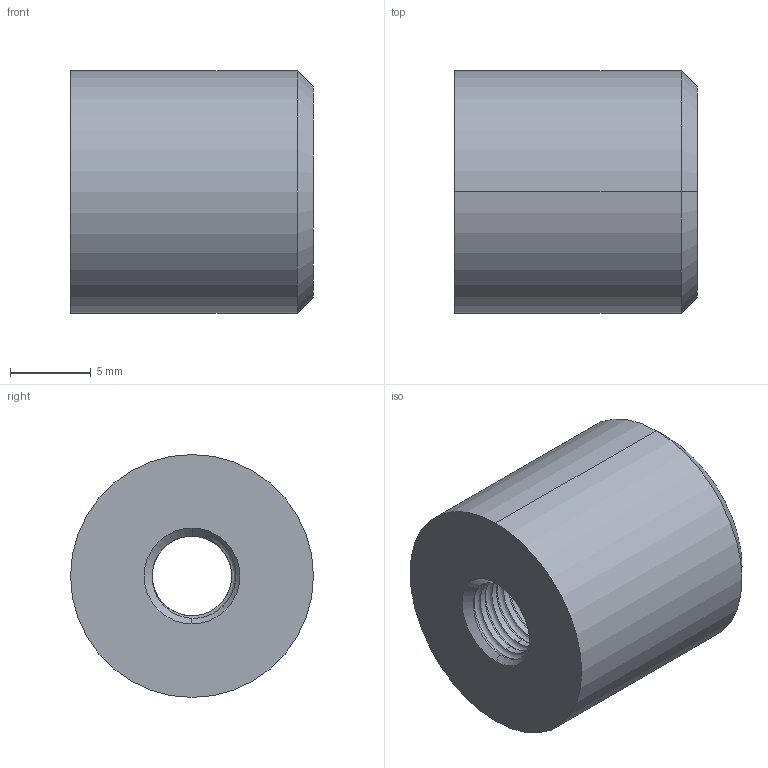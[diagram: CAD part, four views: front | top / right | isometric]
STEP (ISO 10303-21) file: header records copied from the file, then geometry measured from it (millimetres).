
FILE_DESCRIPTION (( 'STEP AP203' ), '1' );
FILE_NAME ('KD-208-4.STEP', '2009-08-13T08:51:59', ( 'kj06' ), ( 'kongjin' ), 'SwSTEP 2.0', 'SolidWorks 2007', '' );
FILE_SCHEMA (( 'CONFIG_CONTROL_DESIGN' ));
Length unit declared in the file: millimetre
Products named in the file (1): KD-208-4
Bounding box: 15 x 15 x 15 mm (x, y, z)
Volume: 2307.3 mm3; surface area: 1279.1 mm2
Topology: 1 solids, 1 shells, 41 faces, 113 edges, 74 vertices
Faces by surface type: cylinder 31, cone 6, bspline 2, plane 2
Entity records: 4605 total; most frequent: CARTESIAN_POINT 3655, ORIENTED_EDGE 226, DIRECTION 144, EDGE_CURVE 113, VERTEX_POINT 74, AXIS2_PLACEMENT_3D 54, EDGE_LOOP 43, ADVANCED_FACE 41
